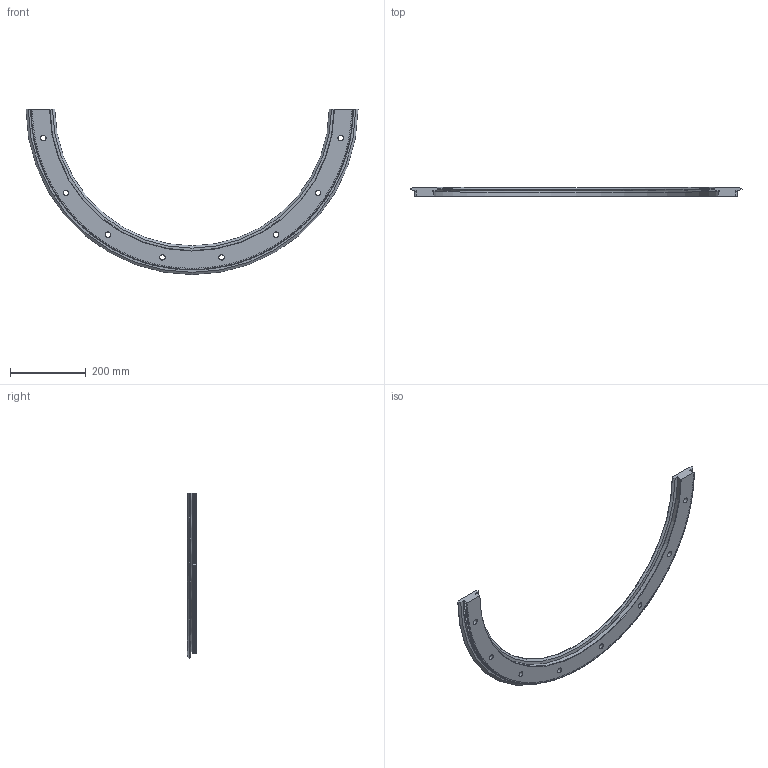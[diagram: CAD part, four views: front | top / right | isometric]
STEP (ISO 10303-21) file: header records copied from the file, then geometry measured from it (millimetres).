
FILE_DESCRIPTION( ( 'STEP AP203' ), '1' );
FILE_NAME( 'p:/temp/worker_35/temp/exporttempdir_1816_166_hwO55/format_0/R76 799 R180 P.stp', '2021-07-19T05:41:42', ( 'License CC BY-ND 4.0' ), ( 'CADENAS' ), ' ', 'PARTsolutions', ' ' );
FILE_SCHEMA( ( 'CONFIG_CONTROL_DESIGN' ) );
Length unit declared in the file: millimetre
Products named in the file (1): _R76 799 R180 P
Bounding box: 874.87 x 24 x 435.44 mm (x, y, z)
Volume: 1640874 mm3; surface area: 280032.9 mm2
Topology: 1 solids, 1 shells, 1740 faces, 4618 edges, 2888 vertices
Faces by surface type: plane 1144, cylinder 300, cone 294, torus 2
Full cylindrical faces by diameter (mm): 14 x8, 20 x8
Entity records: 54056 total; most frequent: CARTESIAN_POINT 10964, ORIENTED_EDGE 9188, DIRECTION 8962, EDGE_CURVE 4594, AXIS2_PLACEMENT_3D 3203, VERTEX_POINT 2889, LINE 2556, VECTOR 2556
